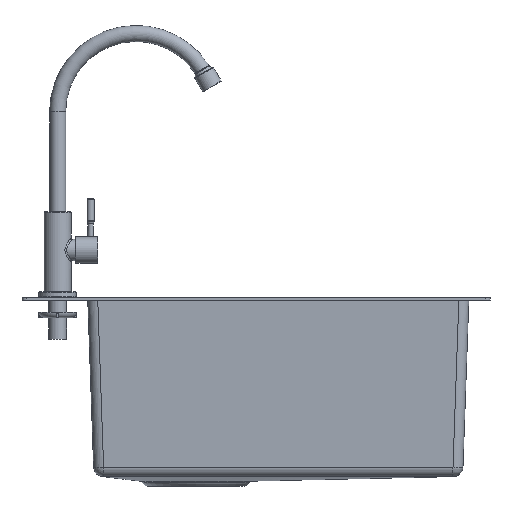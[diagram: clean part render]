
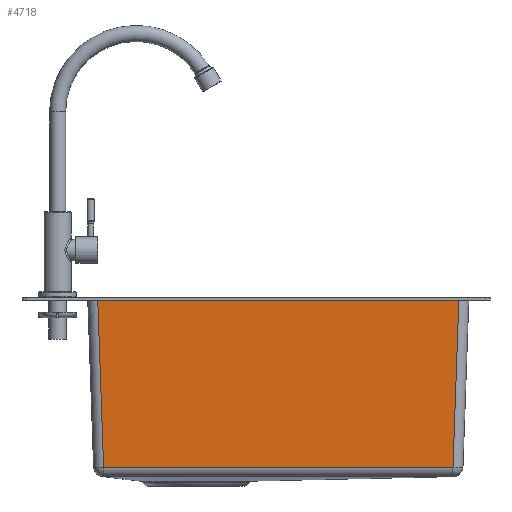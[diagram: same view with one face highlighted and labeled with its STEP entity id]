
A CAD part, left-side view. The second image highlights one B-rep face of the part: STEP entity #4718.
In plain terms, the highlighted planar face has unit normal (-0.999, 0, -0.035).
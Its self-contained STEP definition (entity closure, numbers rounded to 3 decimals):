
#639=LINE('',#7686,#841);
#681=LINE('',#12076,#883);
#682=LINE('',#12078,#884);
#683=LINE('',#12079,#885);
#841=VECTOR('',#5676,10.);
#883=VECTOR('',#5848,10.);
#884=VECTOR('',#5849,10.);
#885=VECTOR('',#5850,10.);
#1035=FACE_OUTER_BOUND('',#1335,.T.);
#1335=EDGE_LOOP('',(#3616,#3617,#3618,#3619));
#1983=VERTEX_POINT('',#7683);
#1984=VERTEX_POINT('',#7685);
#2057=VERTEX_POINT('',#12075);
#2058=VERTEX_POINT('',#12077);
#2510=EDGE_CURVE('',#1984,#1983,#639,.T.);
#2614=EDGE_CURVE('',#1984,#2057,#681,.T.);
#2615=EDGE_CURVE('',#2058,#1983,#682,.T.);
#2616=EDGE_CURVE('',#2057,#2058,#683,.T.);
#3616=ORIENTED_EDGE('',*,*,#2614,.F.);
#3617=ORIENTED_EDGE('',*,*,#2510,.T.);
#3618=ORIENTED_EDGE('',*,*,#2615,.F.);
#3619=ORIENTED_EDGE('',*,*,#2616,.F.);
#4598=PLANE('',#5099);
#4718=ADVANCED_FACE('',(#1035),#4598,.T.);
#5099=AXIS2_PLACEMENT_3D('',#12074,#5846,#5847);
#5676=DIRECTION('',(0.,1.,0.));
#5846=DIRECTION('center_axis',(-0.999,0.,-0.035));
#5847=DIRECTION('ref_axis',(-0.035,0.,0.999));
#5848=DIRECTION('',(0.035,0.035,-0.999));
#5849=DIRECTION('',(-0.035,0.035,0.999));
#5850=DIRECTION('',(0.,1.,0.));
#7683=CARTESIAN_POINT('',(23.801,440.006,-0.042));
#7685=CARTESIAN_POINT('',(23.801,34.994,-0.042));
#7686=CARTESIAN_POINT('',(23.801,25.,-0.042));
#12074=CARTESIAN_POINT('Origin',(30.343,25.,-187.391));
#12075=CARTESIAN_POINT('',(30.343,41.536,-187.391));
#12076=CARTESIAN_POINT('',(30.481,41.674,-191.343));
#12077=CARTESIAN_POINT('',(30.343,433.464,-187.391));
#12078=CARTESIAN_POINT('',(30.661,433.146,-196.482));
#12079=CARTESIAN_POINT('',(30.343,25.,-187.391));
